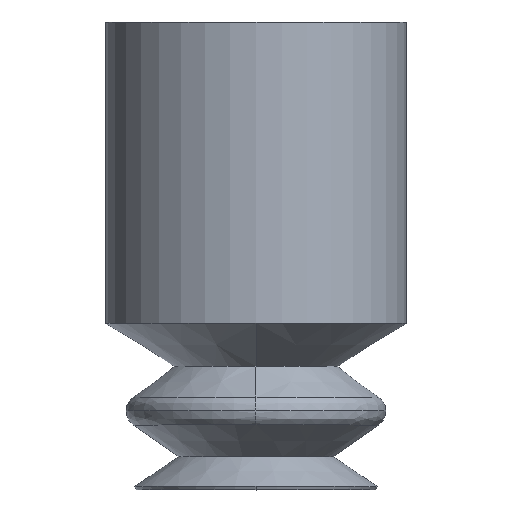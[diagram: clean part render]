
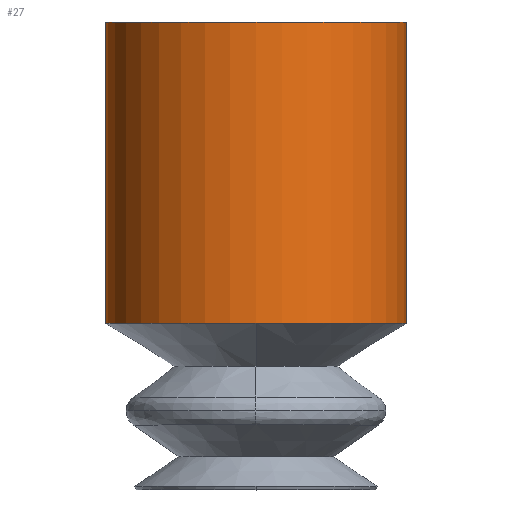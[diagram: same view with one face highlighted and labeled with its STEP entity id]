
A CAD part, top view. The second image highlights one B-rep face of the part: STEP entity #27.
In plain terms, the highlighted cylindrical face has radius 3.5 mm (diameter 7 mm), a partial arc.
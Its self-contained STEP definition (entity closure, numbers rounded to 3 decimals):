
#1 = CARTESIAN_POINT ( 'NONE',  ( -3.5, -7., 0. ) ) ;
#27 = ADVANCED_FACE ( 'NONE', ( #712 ), #842, .T. ) ;
#55 = ORIENTED_EDGE ( 'NONE', *, *, #259, .T. ) ;
#99 = ORIENTED_EDGE ( 'NONE', *, *, #504, .F. ) ;
#120 = VERTEX_POINT ( 'NONE', #838 ) ;
#121 = CARTESIAN_POINT ( 'NONE',  ( -3.5, 0., 0. ) ) ;
#139 = VERTEX_POINT ( 'NONE', #121 ) ;
#141 = CIRCLE ( 'NONE', #299, 3.5 ) ;
#159 = DIRECTION ( 'NONE',  ( -1., 0., 0. ) ) ;
#166 = AXIS2_PLACEMENT_3D ( 'NONE', #757, #350, #829 ) ;
#171 = DIRECTION ( 'NONE',  ( 0., 1., 0. ) ) ;
#195 = EDGE_CURVE ( 'NONE', #139, #120, #279, .T. ) ;
#209 = LINE ( 'NONE', #1, #659 ) ;
#216 = DIRECTION ( 'NONE',  ( 0., 1., 0. ) ) ;
#245 = ORIENTED_EDGE ( 'NONE', *, *, #195, .F. ) ;
#259 = EDGE_CURVE ( 'NONE', #624, #120, #407, .T. ) ;
#279 = CIRCLE ( 'NONE', #166, 3.5 ) ;
#281 = DIRECTION ( 'NONE',  ( 0., 1., 0. ) ) ;
#298 = CARTESIAN_POINT ( 'NONE',  ( 0., -7., 0. ) ) ;
#299 = AXIS2_PLACEMENT_3D ( 'NONE', #477, #554, #687 ) ;
#309 = DIRECTION ( 'NONE',  ( 0., 0., 1. ) ) ;
#310 = VERTEX_POINT ( 'NONE', #789 ) ;
#329 = CARTESIAN_POINT ( 'NONE',  ( 3.5, -7., 0. ) ) ;
#350 = DIRECTION ( 'NONE',  ( 0., 1., 0. ) ) ;
#407 = LINE ( 'NONE', #608, #723 ) ;
#429 = AXIS2_PLACEMENT_3D ( 'NONE', #456, #171, #309 ) ;
#432 = EDGE_CURVE ( 'NONE', #310, #624, #660, .T. ) ;
#456 = CARTESIAN_POINT ( 'NONE',  ( 0., -7., 0. ) ) ;
#465 = AXIS2_PLACEMENT_3D ( 'NONE', #298, #216, #159 ) ;
#477 = CARTESIAN_POINT ( 'NONE',  ( 0., -7., 0. ) ) ;
#484 = VERTEX_POINT ( 'NONE', #795 ) ;
#504 = EDGE_CURVE ( 'NONE', #484, #139, #209, .T. ) ;
#516 = DIRECTION ( 'NONE',  ( 0., 1., 0. ) ) ;
#554 = DIRECTION ( 'NONE',  ( 0., 1., 0. ) ) ;
#568 = ORIENTED_EDGE ( 'NONE', *, *, #751, .T. ) ;
#608 = CARTESIAN_POINT ( 'NONE',  ( 3.5, -7., 0. ) ) ;
#624 = VERTEX_POINT ( 'NONE', #329 ) ;
#651 = EDGE_LOOP ( 'NONE', ( #568, #903, #55, #245, #99 ) ) ;
#659 = VECTOR ( 'NONE', #281, 1000. ) ;
#660 = CIRCLE ( 'NONE', #429, 3.5 ) ;
#687 = DIRECTION ( 'NONE',  ( 0., 0., 1. ) ) ;
#712 = FACE_OUTER_BOUND ( 'NONE', #651, .T. ) ;
#723 = VECTOR ( 'NONE', #516, 1000. ) ;
#751 = EDGE_CURVE ( 'NONE', #484, #310, #141, .T. ) ;
#757 = CARTESIAN_POINT ( 'NONE',  ( 0., 0., 0. ) ) ;
#789 = CARTESIAN_POINT ( 'NONE',  ( 0., -7., 3.5 ) ) ;
#795 = CARTESIAN_POINT ( 'NONE',  ( -3.5, -7., 0. ) ) ;
#829 = DIRECTION ( 'NONE',  ( -1., 0., 0. ) ) ;
#838 = CARTESIAN_POINT ( 'NONE',  ( 3.5, 0., 0. ) ) ;
#842 = CYLINDRICAL_SURFACE ( 'NONE', #465, 3.5 ) ;
#903 = ORIENTED_EDGE ( 'NONE', *, *, #432, .T. ) ;
